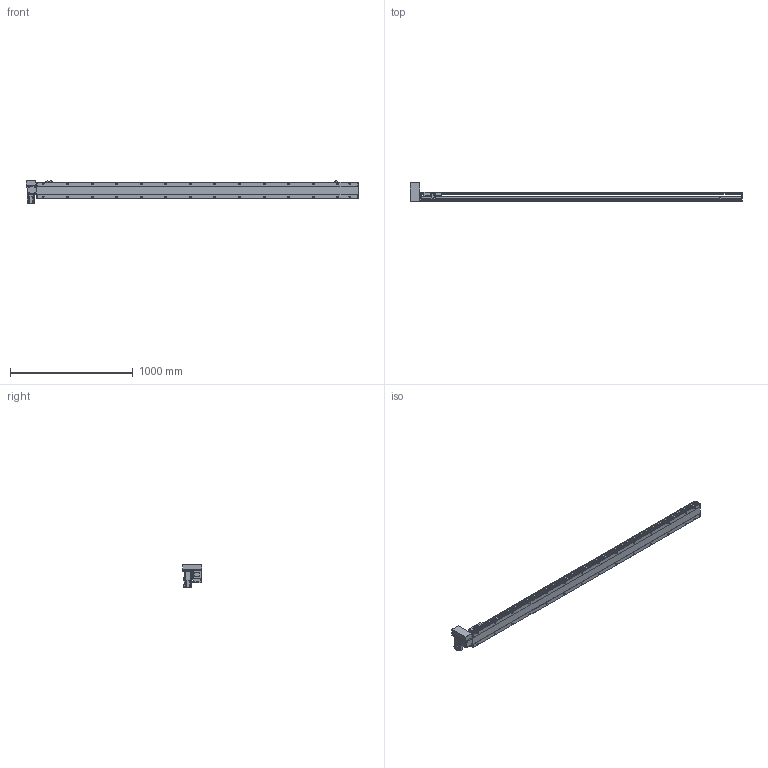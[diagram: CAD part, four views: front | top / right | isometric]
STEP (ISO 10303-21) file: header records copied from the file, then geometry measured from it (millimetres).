
FILE_DESCRIPTION( ( 'STEP AP214' ), '1' );
FILE_NAME( 'x:/temp/worker_4/temp/exporttempdir_2248_118_Ki9Cs/format_0/PBS140-P40-S2350-RU-T40-C1-N(0).stp', '2022-06-07T05:56:43', ( 'License CC BY-ND 4.0' ), ( 'CADENAS' ), ' ', 'PARTsolutions', ' ' );
FILE_SCHEMA( ( 'AUTOMOTIVE_DESIGN { 1 0 10303 214 1 1 1 1 }' ) );
Length unit declared in the file: millimetre
Products named in the file (7): PBS140-P40-S2350-RU-T40-C1-N(0); _PBS140-S2350()_body; _PBS140T-RU_motors; _T40-p1; _PBS140_sliser; _PBS140_plant; _PBS140_sensor
Assembly tree (8 placements, depth 2):
  PBS140-P40-S2350-RU-T40-C1-N(0)
    _PBS140-S2350()_body
    _PBS140T-RU_motors
    _T40-p1
    _PBS140_sliser
    _PBS140_plant
    _PBS140_sensor  x3
Bounding box: 2704 x 162.5 x 189.7 mm (x, y, z)
Volume: 12171131.2 mm3; surface area: 2076253.3 mm2
Topology: 8 solids, 8 shells, 1171 faces, 3076 edges, 2009 vertices
Faces by surface type: plane 728, cylinder 379, cone 54, sphere 8, torus 2
Full cylindrical faces by diameter (mm): 3.242 x4, 4 x2, 4.134 x4, 4.4 x8, 4.5 x2, 4.8 x4, 4.917 x36, 5.5 x7, 6 x2, 7 x30, 7.5 x8, 8 x12, 8.5 x4, 10.5 x28, 14 x1, 30 x2, 50 x2
Entity records: 43141 total; most frequent: CARTESIAN_POINT 7259, DIRECTION 5617, ORIENTED_EDGE 5272, EDGE_CURVE 2636, AXIS2_PLACEMENT_3D 1987, VERTEX_POINT 1845, LINE 1643, VECTOR 1643
